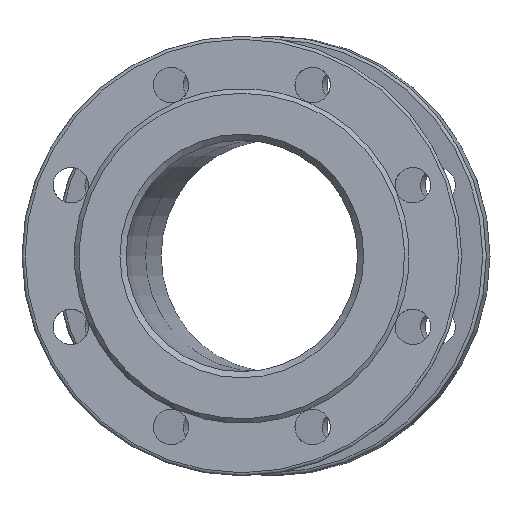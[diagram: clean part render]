
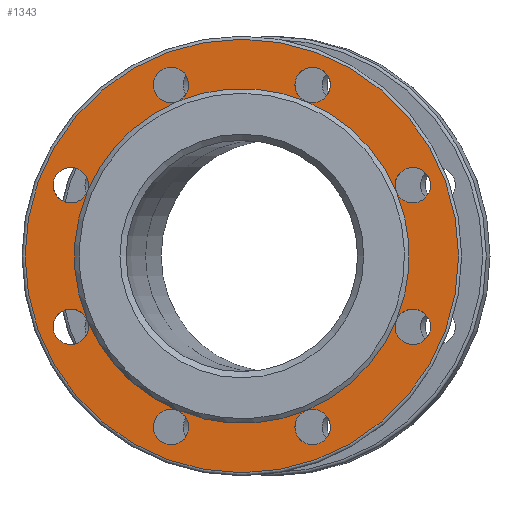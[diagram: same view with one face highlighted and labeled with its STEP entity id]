
A CAD part, left-side view. The second image highlights one B-rep face of the part: STEP entity #1343.
In plain terms, the highlighted planar face has unit normal (-1, 0, 0).
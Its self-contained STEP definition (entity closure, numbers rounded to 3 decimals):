
#2 = CARTESIAN_POINT ( 'NONE',  ( 3., 45.922, 110.866 ) ) ;
#9 = AXIS2_PLACEMENT_3D ( 'NONE', #797, #2011, #162 ) ;
#20 = DIRECTION ( 'NONE',  ( 0., 0., 1. ) ) ;
#74 = ORIENTED_EDGE ( 'NONE', *, *, #1897, .F. ) ;
#89 = AXIS2_PLACEMENT_3D ( 'NONE', #2247, #1813, #2423 ) ;
#97 = CIRCLE ( 'NONE', #9, 11.5 ) ;
#162 = DIRECTION ( 'NONE',  ( 0., 0., -1. ) ) ;
#176 = CARTESIAN_POINT ( 'NONE',  ( 3., 110.866, 45.922 ) ) ;
#218 = CIRCLE ( 'NONE', #815, 11.5 ) ;
#221 = CARTESIAN_POINT ( 'NONE',  ( 3., 41.521, 100.241 ) ) ;
#229 = DIRECTION ( 'NONE',  ( 0., 0., -1. ) ) ;
#237 = EDGE_CURVE ( 'NONE', #1100, #1100, #1296, .T. ) ;
#258 = AXIS2_PLACEMENT_3D ( 'NONE', #2375, #1753, #477 ) ;
#265 = CIRCLE ( 'NONE', #908, 11.5 ) ;
#312 = CARTESIAN_POINT ( 'NONE',  ( 3., 0., 0. ) ) ;
#331 = DIRECTION ( 'NONE',  ( 0., 0., 1. ) ) ;
#361 = CARTESIAN_POINT ( 'NONE',  ( 3., 100.241, 41.521 ) ) ;
#362 = AXIS2_PLACEMENT_3D ( 'NONE', #1765, #2390, #537 ) ;
#391 = ORIENTED_EDGE ( 'NONE', *, *, #967, .F. ) ;
#404 = CIRCLE ( 'NONE', #2510, 108.5 ) ;
#425 = DIRECTION ( 'NONE',  ( 0., 0., 1. ) ) ;
#477 = DIRECTION ( 'NONE',  ( 0., 0., -1. ) ) ;
#504 = CARTESIAN_POINT ( 'NONE',  ( 3., 0., 0. ) ) ;
#515 = DIRECTION ( 'NONE',  ( -1., 0., 0. ) ) ;
#519 = DIRECTION ( 'NONE',  ( -1., 0., 0. ) ) ;
#537 = DIRECTION ( 'NONE',  ( 0., 0., -1. ) ) ;
#558 = DIRECTION ( 'NONE',  ( 0., 0., -1. ) ) ;
#569 = AXIS2_PLACEMENT_3D ( 'NONE', #2274, #1441, #425 ) ;
#589 = EDGE_CURVE ( 'NONE', #2478, #1827, #2077, .T. ) ;
#602 = AXIS2_PLACEMENT_3D ( 'NONE', #504, #748, #331 ) ;
#652 = DIRECTION ( 'NONE',  ( -1., 0., 0. ) ) ;
#677 = EDGE_CURVE ( 'NONE', #1242, #2328, #742, .T. ) ;
#698 = ORIENTED_EDGE ( 'NONE', *, *, #1630, .F. ) ;
#702 = CARTESIAN_POINT ( 'NONE',  ( 3., 100.241, -41.521 ) ) ;
#707 = DIRECTION ( 'NONE',  ( -1., 0., 0. ) ) ;
#724 = EDGE_CURVE ( 'NONE', #2004, #2004, #218, .T. ) ;
#742 = CIRCLE ( 'NONE', #89, 108.5 ) ;
#743 = DIRECTION ( 'NONE',  ( 0., 0., -1. ) ) ;
#744 = AXIS2_PLACEMENT_3D ( 'NONE', #1457, #652, #2293 ) ;
#745 = CARTESIAN_POINT ( 'NONE',  ( 3., -41.521, -100.241 ) ) ;
#748 = DIRECTION ( 'NONE',  ( -1., 0., 0. ) ) ;
#753 = FACE_OUTER_BOUND ( 'NONE', #2076, .T. ) ;
#767 = DIRECTION ( 'NONE',  ( -1., 0., 0. ) ) ;
#770 = VERTEX_POINT ( 'NONE', #2166 ) ;
#777 = CIRCLE ( 'NONE', #2427, 11.5 ) ;
#797 = CARTESIAN_POINT ( 'NONE',  ( 3., -110.866, -45.922 ) ) ;
#815 = AXIS2_PLACEMENT_3D ( 'NONE', #176, #996, #1009 ) ;
#820 = AXIS2_PLACEMENT_3D ( 'NONE', #2, #2239, #2054 ) ;
#821 = ORIENTED_EDGE ( 'NONE', *, *, #1016, .F. ) ;
#837 = VERTEX_POINT ( 'NONE', #1332 ) ;
#839 = DIRECTION ( 'NONE',  ( 0., 0., 1. ) ) ;
#861 = EDGE_CURVE ( 'NONE', #1242, #1242, #777, .T. ) ;
#877 = EDGE_CURVE ( 'NONE', #1827, #2004, #2291, .T. ) ;
#908 = AXIS2_PLACEMENT_3D ( 'NONE', #1517, #1949, #1295 ) ;
#911 = AXIS2_PLACEMENT_3D ( 'NONE', #1170, #707, #558 ) ;
#967 = EDGE_CURVE ( 'NONE', #2421, #1242, #2600, .T. ) ;
#982 = ORIENTED_EDGE ( 'NONE', *, *, #2064, .F. ) ;
#996 = DIRECTION ( 'NONE',  ( -1., 0., 0. ) ) ;
#999 = CIRCLE ( 'NONE', #569, 108.5 ) ;
#1009 = DIRECTION ( 'NONE',  ( 0., 0., -1. ) ) ;
#1016 = EDGE_CURVE ( 'NONE', #2421, #2421, #265, .T. ) ;
#1043 = CARTESIAN_POINT ( 'NONE',  ( 3., 0., 0. ) ) ;
#1066 = ORIENTED_EDGE ( 'NONE', *, *, #877, .F. ) ;
#1074 = ORIENTED_EDGE ( 'NONE', *, *, #724, .F. ) ;
#1082 = CIRCLE ( 'NONE', #911, 11.5 ) ;
#1100 = VERTEX_POINT ( 'NONE', #1931 ) ;
#1125 = CIRCLE ( 'NONE', #2045, 11.5 ) ;
#1170 = CARTESIAN_POINT ( 'NONE',  ( 3., -45.922, -110.866 ) ) ;
#1220 = AXIS2_PLACEMENT_3D ( 'NONE', #1890, #767, #2208 ) ;
#1231 = ORIENTED_EDGE ( 'NONE', *, *, #2667, .F. ) ;
#1242 = VERTEX_POINT ( 'NONE', #1363 ) ;
#1245 = DIRECTION ( 'NONE',  ( -1., 0., 0. ) ) ;
#1295 = DIRECTION ( 'NONE',  ( 0., 0., -1. ) ) ;
#1296 = CIRCLE ( 'NONE', #258, 140.5 ) ;
#1332 = CARTESIAN_POINT ( 'NONE',  ( 3., -100.241, 41.521 ) ) ;
#1337 = DIRECTION ( 'NONE',  ( -1., 0., 0. ) ) ;
#1343 = ADVANCED_FACE ( 'NONE', ( #753, #1807 ), #2008, .F. ) ;
#1363 = CARTESIAN_POINT ( 'NONE',  ( 3., 41.521, -100.241 ) ) ;
#1367 = EDGE_CURVE ( 'NONE', #2478, #2478, #1862, .T. ) ;
#1441 = DIRECTION ( 'NONE',  ( -1., 0., 0. ) ) ;
#1447 = ORIENTED_EDGE ( 'NONE', *, *, #2459, .F. ) ;
#1457 = CARTESIAN_POINT ( 'NONE',  ( 3., -45.922, 110.866 ) ) ;
#1503 = CARTESIAN_POINT ( 'NONE',  ( 3., 0., 0. ) ) ;
#1517 = CARTESIAN_POINT ( 'NONE',  ( 3., 110.866, -45.922 ) ) ;
#1525 = EDGE_LOOP ( 'NONE', ( #1762, #1684, #2454, #1231, #1642, #698, #1447, #74, #2338, #2089, #391, #821, #2214, #1074, #1066, #982 ) ) ;
#1528 = DIRECTION ( 'NONE',  ( 0., 0., 1. ) ) ;
#1630 = EDGE_CURVE ( 'NONE', #770, #770, #97, .T. ) ;
#1642 = ORIENTED_EDGE ( 'NONE', *, *, #1835, .F. ) ;
#1684 = ORIENTED_EDGE ( 'NONE', *, *, #1367, .F. ) ;
#1697 = CIRCLE ( 'NONE', #820, 11.5 ) ;
#1715 = CARTESIAN_POINT ( 'NONE',  ( 3., -110.866, 45.922 ) ) ;
#1740 = DIRECTION ( 'NONE',  ( -1., 0., 0. ) ) ;
#1753 = DIRECTION ( 'NONE',  ( -1., 0., 0. ) ) ;
#1762 = ORIENTED_EDGE ( 'NONE', *, *, #589, .F. ) ;
#1765 = CARTESIAN_POINT ( 'NONE',  ( 3., 108.5, 0. ) ) ;
#1807 = FACE_BOUND ( 'NONE', #1525, .T. ) ;
#1813 = DIRECTION ( 'NONE',  ( -1., 0., 0. ) ) ;
#1822 = EDGE_CURVE ( 'NONE', #837, #2478, #999, .T. ) ;
#1827 = VERTEX_POINT ( 'NONE', #221 ) ;
#1835 = EDGE_CURVE ( 'NONE', #770, #837, #2464, .T. ) ;
#1862 = CIRCLE ( 'NONE', #744, 11.5 ) ;
#1863 = CARTESIAN_POINT ( 'NONE',  ( 3., 0., 0. ) ) ;
#1873 = DIRECTION ( 'NONE',  ( -1., 0., 0. ) ) ;
#1890 = CARTESIAN_POINT ( 'NONE',  ( 3., 0., 0. ) ) ;
#1897 = EDGE_CURVE ( 'NONE', #2328, #2328, #1082, .T. ) ;
#1931 = CARTESIAN_POINT ( 'NONE',  ( 3., 0., -140.5 ) ) ;
#1949 = DIRECTION ( 'NONE',  ( -1., 0., 0. ) ) ;
#2004 = VERTEX_POINT ( 'NONE', #361 ) ;
#2008 = PLANE ( 'NONE',  #362 ) ;
#2011 = DIRECTION ( 'NONE',  ( -1., 0., 0. ) ) ;
#2037 = AXIS2_PLACEMENT_3D ( 'NONE', #1043, #1873, #20 ) ;
#2045 = AXIS2_PLACEMENT_3D ( 'NONE', #1715, #1337, #743 ) ;
#2054 = DIRECTION ( 'NONE',  ( 0., 0., -1. ) ) ;
#2064 = EDGE_CURVE ( 'NONE', #1827, #1827, #1697, .T. ) ;
#2067 = CARTESIAN_POINT ( 'NONE',  ( 3., -41.521, 100.241 ) ) ;
#2076 = EDGE_LOOP ( 'NONE', ( #2365 ) ) ;
#2077 = CIRCLE ( 'NONE', #602, 108.5 ) ;
#2089 = ORIENTED_EDGE ( 'NONE', *, *, #861, .F. ) ;
#2132 = AXIS2_PLACEMENT_3D ( 'NONE', #1503, #519, #2325 ) ;
#2166 = CARTESIAN_POINT ( 'NONE',  ( 3., -100.241, -41.521 ) ) ;
#2208 = DIRECTION ( 'NONE',  ( 0., 0., 1. ) ) ;
#2214 = ORIENTED_EDGE ( 'NONE', *, *, #2345, .F. ) ;
#2239 = DIRECTION ( 'NONE',  ( -1., 0., 0. ) ) ;
#2247 = CARTESIAN_POINT ( 'NONE',  ( 3., 0., 0. ) ) ;
#2257 = AXIS2_PLACEMENT_3D ( 'NONE', #1863, #1245, #839 ) ;
#2274 = CARTESIAN_POINT ( 'NONE',  ( 3., 0., 0. ) ) ;
#2280 = CARTESIAN_POINT ( 'NONE',  ( 3., 45.922, -110.866 ) ) ;
#2291 = CIRCLE ( 'NONE', #1220, 108.5 ) ;
#2293 = DIRECTION ( 'NONE',  ( 0., 0., -1. ) ) ;
#2325 = DIRECTION ( 'NONE',  ( 0., 0., 1. ) ) ;
#2328 = VERTEX_POINT ( 'NONE', #745 ) ;
#2338 = ORIENTED_EDGE ( 'NONE', *, *, #677, .F. ) ;
#2345 = EDGE_CURVE ( 'NONE', #2004, #2421, #404, .T. ) ;
#2365 = ORIENTED_EDGE ( 'NONE', *, *, #237, .T. ) ;
#2375 = CARTESIAN_POINT ( 'NONE',  ( 3., 0., 0. ) ) ;
#2390 = DIRECTION ( 'NONE',  ( 1., 0., 0. ) ) ;
#2421 = VERTEX_POINT ( 'NONE', #702 ) ;
#2423 = DIRECTION ( 'NONE',  ( 0., 0., 1. ) ) ;
#2427 = AXIS2_PLACEMENT_3D ( 'NONE', #2280, #1740, #229 ) ;
#2454 = ORIENTED_EDGE ( 'NONE', *, *, #1822, .F. ) ;
#2459 = EDGE_CURVE ( 'NONE', #2328, #770, #2646, .T. ) ;
#2464 = CIRCLE ( 'NONE', #2037, 108.5 ) ;
#2478 = VERTEX_POINT ( 'NONE', #2067 ) ;
#2510 = AXIS2_PLACEMENT_3D ( 'NONE', #312, #515, #1528 ) ;
#2600 = CIRCLE ( 'NONE', #2132, 108.5 ) ;
#2646 = CIRCLE ( 'NONE', #2257, 108.5 ) ;
#2667 = EDGE_CURVE ( 'NONE', #837, #837, #1125, .T. ) ;
